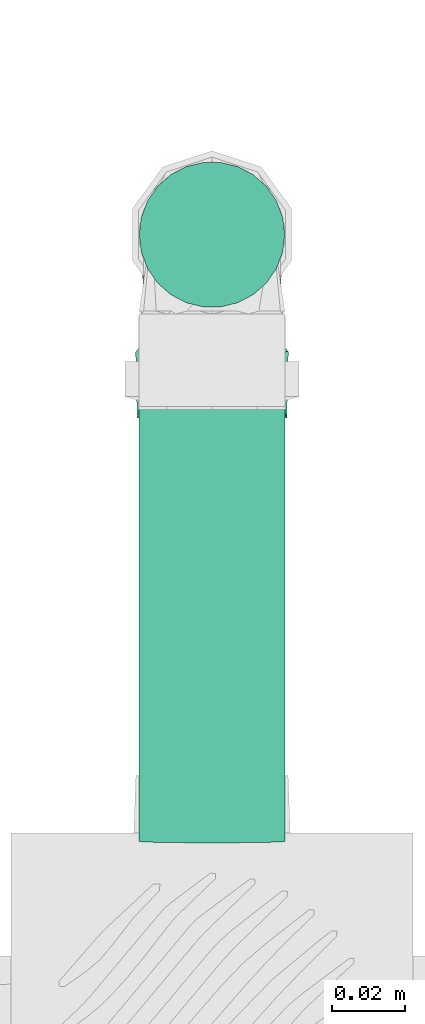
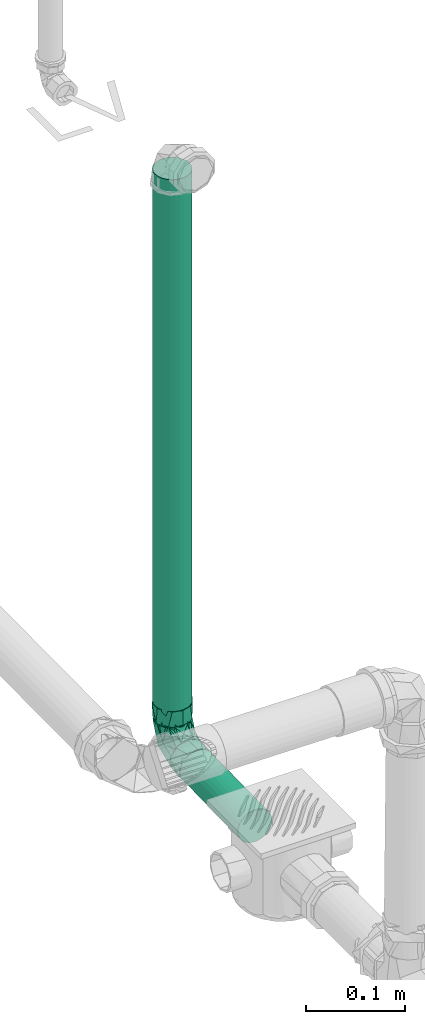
# One storey, part 188 of 589: 2 flow segments, 1 flow fitting.
"""IFC2X3 building model written with IfcOpenShell, lengths in millimetres."""

from ifc_helpers import new_model, entity, si_unit, converted_unit, derived_unit, direction, frame, frame_2d, origin, origin_2d_with_axis, place, context, subcontext, project, spatial, circle, extrude, faceted_brep, source, transform, mapped, material, type_object, type_shapes, element, save


model = new_model("IFC2X3")

# Units and contexts
model_context = context("Model", 3, precision=0.01, world=origin(), true_north=direction((6.123031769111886e-17, 1.0)))
body_context = subcontext(model_context, "Body", "Model", "MODEL_VIEW")
ifc_project = project(units=[si_unit("LENGTHUNIT", "METRE", prefix="MILLI"), si_unit("AREAUNIT", "SQUARE_METRE"), si_unit("VOLUMEUNIT", "CUBIC_METRE"), converted_unit("PLANEANGLEUNIT", "DEGREE", entity("IfcRatioMeasure", 0.017453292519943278), si_unit("PLANEANGLEUNIT", "RADIAN"), dimensions=[0, 0, 0, 0, 0, 0, 0]), si_unit("MASSUNIT", "GRAM", prefix="KILO"), derived_unit("MASSDENSITYUNIT", [(si_unit("MASSUNIT", "GRAM", prefix="KILO"), 1), (si_unit("LENGTHUNIT", "METRE"), -3)]), derived_unit("IONCONCENTRATIONUNIT", [(si_unit("MASSUNIT", "GRAM", prefix="KILO"), 1), (si_unit("LENGTHUNIT", "METRE"), -3)]), derived_unit("MOMENTOFINERTIAUNIT", [(si_unit("LENGTHUNIT", "METRE"), 4)]), si_unit("TIMEUNIT", "SECOND"), si_unit("FREQUENCYUNIT", "HERTZ"), si_unit("THERMODYNAMICTEMPERATUREUNIT", "DEGREE_CELSIUS"), derived_unit("THERMALTRANSMITTANCEUNIT", [(si_unit("MASSUNIT", "GRAM", prefix="KILO"), 1), (si_unit("THERMODYNAMICTEMPERATUREUNIT", "KELVIN"), -1), (si_unit("TIMEUNIT", "SECOND"), -3)]), derived_unit("THERMALCONDUCTANCEUNIT", [(si_unit("MASSUNIT", "GRAM", prefix="KILO"), 1), (si_unit("THERMODYNAMICTEMPERATUREUNIT", "KELVIN"), -1), (si_unit("TIMEUNIT", "SECOND"), -3), (si_unit("LENGTHUNIT", "METRE"), 1)]), derived_unit("VOLUMETRICFLOWRATEUNIT", [(si_unit("LENGTHUNIT", "METRE"), 3), (si_unit("TIMEUNIT", "SECOND"), -1)]), derived_unit("MASSFLOWRATEUNIT", [(si_unit("MASSUNIT", "GRAM", prefix="KILO"), 1), (si_unit("TIMEUNIT", "SECOND"), -1)]), derived_unit("ROTATIONALFREQUENCYUNIT", [(si_unit("TIMEUNIT", "SECOND"), -1)]), si_unit("ELECTRICCURRENTUNIT", "AMPERE"), si_unit("ELECTRICVOLTAGEUNIT", "VOLT"), si_unit("POWERUNIT", "WATT"), si_unit("FORCEUNIT", "NEWTON", prefix="KILO"), si_unit("ILLUMINANCEUNIT", "LUX"), si_unit("LUMINOUSFLUXUNIT", "LUMEN"), si_unit("LUMINOUSINTENSITYUNIT", "CANDELA"), derived_unit("USERDEFINED", [(si_unit("MASSUNIT", "GRAM", prefix="KILO"), -1), (si_unit("LENGTHUNIT", "METRE"), -2), (si_unit("TIMEUNIT", "SECOND"), 3), (si_unit("LUMINOUSFLUXUNIT", "LUMEN"), 1)]), derived_unit("USERDEFINED", [(si_unit("MASSUNIT", "GRAM", prefix="KILO"), 1), (si_unit("TIMEUNIT", "SECOND"), -3), (si_unit("LENGTHUNIT", "METRE"), 3), (si_unit("ELECTRICCURRENTUNIT", "AMPERE"), -2)]), derived_unit("SOUNDPOWERUNIT", [(si_unit("MASSUNIT", "GRAM", prefix="KILO"), 1), (si_unit("TIMEUNIT", "SECOND"), -3), (si_unit("LENGTHUNIT", "METRE"), 2)]), derived_unit("SOUNDPRESSUREUNIT", [(si_unit("MASSUNIT", "GRAM", prefix="KILO"), 1), (si_unit("LENGTHUNIT", "METRE"), -1), (si_unit("TIMEUNIT", "SECOND"), -2)]), derived_unit("LINEARVELOCITYUNIT", [(si_unit("LENGTHUNIT", "METRE"), 1), (si_unit("TIMEUNIT", "SECOND"), -1)]), si_unit("PRESSUREUNIT", "PASCAL"), derived_unit("USERDEFINED", [(si_unit("MASSUNIT", "GRAM", prefix="KILO"), 1), (si_unit("LENGTHUNIT", "METRE"), -2), (si_unit("TIMEUNIT", "SECOND"), -2)]), derived_unit("LINEARFORCEUNIT", [(si_unit("MASSUNIT", "GRAM", prefix="KILO"), 1), (si_unit("TIMEUNIT", "SECOND"), -2)]), derived_unit("PLANARFORCEUNIT", [(si_unit("MASSUNIT", "GRAM", prefix="KILO"), 1), (si_unit("LENGTHUNIT", "METRE"), -1), (si_unit("TIMEUNIT", "SECOND"), -2)]), derived_unit("SPECIFICHEATCAPACITYUNIT", [(si_unit("THERMODYNAMICTEMPERATUREUNIT", "KELVIN"), -1), (si_unit("LENGTHUNIT", "METRE"), 2), (si_unit("TIMEUNIT", "SECOND"), -2)]), derived_unit("HEATINGVALUEUNIT", [(si_unit("LENGTHUNIT", "METRE"), 2), (si_unit("TIMEUNIT", "SECOND"), -2)]), derived_unit("VAPORPERMEABILITYUNIT", [(si_unit("LENGTHUNIT", "METRE"), -1), (si_unit("TIMEUNIT", "SECOND"), 1)]), derived_unit("DYNAMICVISCOSITYUNIT", [(si_unit("MASSUNIT", "GRAM", prefix="KILO"), 1), (si_unit("TIMEUNIT", "SECOND"), -1), (si_unit("LENGTHUNIT", "METRE"), -1)]), derived_unit("THERMALEXPANSIONCOEFFICIENTUNIT", [(si_unit("THERMODYNAMICTEMPERATUREUNIT", "KELVIN"), -1)]), derived_unit("MODULUSOFELASTICITYUNIT", [(si_unit("MASSUNIT", "GRAM", prefix="KILO"), 1), (si_unit("LENGTHUNIT", "METRE"), -1), (si_unit("TIMEUNIT", "SECOND"), -2)]), derived_unit("ISOTHERMALMOISTURECAPACITYUNIT", [(si_unit("LENGTHUNIT", "METRE"), 3), (si_unit("MASSUNIT", "GRAM", prefix="KILO"), -1)]), derived_unit("MOISTUREDIFFUSIVITYUNIT", [(si_unit("TIMEUNIT", "SECOND"), -1), (si_unit("LENGTHUNIT", "METRE"), 2)])], contexts=[model_context])

# Site, building, storey
site_placement = place(None, origin())
site = spatial("IfcSite", under=ifc_project, at=site_placement, Name="Default", CompositionType="ELEMENT")
building_placement = place(site_placement, origin())
building = spatial("IfcBuilding", under=site, at=building_placement, CompositionType="ELEMENT")
storey_placement = place(building_placement, frame((0.0, 0.0, 100.0)))
storey = spatial("IfcBuildingStorey", under=building, at=storey_placement, Name="TÉRREO", CompositionType="ELEMENT", Elevation=100.0)

# Flow segments
pipe_segment_type = type_object("IfcPipeSegmentType", Name="Tipos de tubos:PVC Esgoto Série Normal", PredefinedType="NOTDEFINED")
flow_segment_1_placement = place(storey_placement, origin())
element("IfcFlowSegment", 1, at=flow_segment_1_placement, inside=storey, type_object=pipe_segment_type, Name="Tipos de tubos:PVC Esgoto Série Normal", ObjectType="Tipos de tubos:PVC Esgoto Série Normal", context=body_context, shape_type="SweptSolid", body=[
    extrude(circle(Radius=20.0, at=frame_2d((0.0, 1.0826506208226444e-14), x_axis=(1.0, 0.0))), frame((10266.454903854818, -4471.307335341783, -278.33413513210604), z_axis=(0.0, 0.9998000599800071, 0.019996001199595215), x_axis=(-1.0, 0.0, 0.0)), (0.0, 0.0, 1.0), 134.50888669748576),
])
flow_segment_2_placement = place(storey_placement, origin())
element("IfcFlowSegment", 2, at=flow_segment_2_placement, inside=storey, type_object=pipe_segment_type, Name="Tipos de tubos:PVC Esgoto Série Normal", ObjectType="Tipos de tubos:PVC Esgoto Série Normal", context=body_context, shape_type="SweptSolid", body=[
    extrude(circle(Radius=20.0, at=origin_2d_with_axis()), frame((10266.454903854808, -4304.625782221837, -242.7945046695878)), (0.0, 0.0, 1.0), 671.7945116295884),
])

# Flow fitting
ifc_material = material(Name="PVC Branco")
pipe_fitting_type = type_object("IfcPipeFittingType", Name="PVC Esgoto_Curva 90° Curta:a. Série Normal", PredefinedType="NOTDEFINED", material=ifc_material)
shared_shape = source(origin(), body_context, "Body", "Brep", [
    faceted_brep([(17.961036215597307, 31.85321923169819, 10.0), (20.63999240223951, 31.79964010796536, 0.0), (17.961036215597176, 31.853219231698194, -10.0), (5.819337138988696, 32.09605321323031, -19.318516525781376), (-4.531354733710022, 32.30306705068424, -19.31851652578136), (-16.67305381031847, 32.545901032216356, -10.0), (-19.352009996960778, 32.59948015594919, 0.0), (-16.673053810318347, 32.54590103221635, 10.0), (-4.531354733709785, 32.303067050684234, 19.318516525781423), (5.819337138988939, 32.096053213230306, 19.318516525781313), (19.378093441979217, 29.02431814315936, 6.84041311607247), (15.905813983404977, 29.093763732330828, 12.855768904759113), (20.584003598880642, 29.000199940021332, 0.0), (7.427001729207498, 29.263339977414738, 18.793865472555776), (0.5880023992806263, 29.40011996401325, 20.0), (-12.265223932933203, 29.657184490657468, 15.320851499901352), (-18.202100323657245, 29.775922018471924, 6.840381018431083), (-19.407998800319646, 29.800039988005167, 0.0), (-6.251109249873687, 29.536902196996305, 18.79382458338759), (-18.202100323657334, 29.775922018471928, -6.840381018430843), (-14.729853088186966, 29.70647707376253, -12.855716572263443), (-6.25110924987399, 29.53690219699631, -18.79382458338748), (0.588002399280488, 29.40011996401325, -20.0), (13.441163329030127, 29.143056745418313, -15.32090639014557), (19.378093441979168, 29.02431814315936, -6.8404131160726), (7.427001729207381, 29.263339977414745, -18.79386547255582), (-11.35075352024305, -12.626805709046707, 0.0), (-29.405999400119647, -18.793848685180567, 6.8404131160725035), (-29.405999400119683, -19.396924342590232, 3.420206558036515), (-29.405999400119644, -20.0, 0.0), (-29.40599940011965, -15.320874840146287, 12.855768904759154), (-29.405999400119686, -17.057361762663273, 9.848091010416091), (-2.3339581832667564, 2.3811033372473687, 18.02101843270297), (-29.40599940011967, -6.840366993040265, 18.793865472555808), (-29.405999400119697, -11.080620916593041, 15.824817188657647), (-29.405999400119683, 0.0, 20.0), (-29.40599940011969, -3.420183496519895, 19.396932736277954), (-12.878045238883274, 13.138181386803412, 18.95216884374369), (12.851249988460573, 11.095996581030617, 0.0), (5.594072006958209, -5.707072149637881, 0.0), (-29.405999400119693, 6.840479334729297, 18.79382458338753), (-29.405999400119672, 3.4202396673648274, 19.396912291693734), (-29.405999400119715, 18.793860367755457, 6.840381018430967), (-29.405999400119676, 15.824828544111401, 11.080616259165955), (-29.405999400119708, 12.855796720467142, 15.320851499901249), (-22.405985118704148, 22.858585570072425, 0.0), (-29.40599940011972, 20.0, 0.0), (-29.405999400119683, 19.396930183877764, 3.4201905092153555), (-29.405999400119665, 9.848138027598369, 17.0573380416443), (-14.138248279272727, 14.423838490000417, -18.24666465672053), (-29.405999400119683, 0.0, -20.0), (-29.40599940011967, 3.4202396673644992, -19.396912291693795), (-29.405999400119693, 6.840479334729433, -18.79382458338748), (-29.405999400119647, -18.79384868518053, -6.840413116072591), (-29.40599940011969, -15.824789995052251, -11.080659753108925), (-29.405999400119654, -12.85573130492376, -15.32090639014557), (-2.333957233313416, 2.3811024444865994, -18.021017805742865), (-29.405999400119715, 18.793860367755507, -6.840381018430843), (-29.405999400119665, 11.080699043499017, -15.824770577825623), (-29.405999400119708, 15.320918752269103, -12.855716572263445), (-29.405999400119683, -19.396924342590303, -3.420206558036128), (-29.405999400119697, -9.848049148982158, -17.0573859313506), (-29.40599940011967, -6.840366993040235, -18.79386547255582), (-29.40599940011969, -3.420183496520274, -19.396932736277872), (-29.405999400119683, 19.39693018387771, -3.4201905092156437), (-29.405999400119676, 17.05738956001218, -9.848048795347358), (-30.20599940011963, -8.21241269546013, -16.988887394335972), (-30.20599940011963, -11.248444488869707, -14.659258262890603), (-30.20599940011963, -14.28447628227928, -12.329629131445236), (-30.20599940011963, -17.320508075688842, -10.0), (-30.20599940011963, -18.66025403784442, -5.0), (-30.20599940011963, -20.0, 0.0), (-30.20599940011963, -18.660254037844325, 5.0), (-30.20599940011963, -17.320508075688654, 10.0), (-30.20599940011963, -14.284476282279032, 12.329629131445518), (-30.20599940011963, -11.248444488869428, 14.659258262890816), (-30.20599940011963, -8.21241269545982, 16.988887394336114), (-30.20599940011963, -5.1763809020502, 19.318516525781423), (-30.20599940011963, 0.0, 19.31851652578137), (-30.20599940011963, 5.176380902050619, 19.318516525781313), (-30.20599940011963, 8.21241269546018, 16.98888739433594), (-30.20599940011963, 11.248444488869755, 14.65925826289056), (-30.205999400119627, 14.284476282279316, 12.329629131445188), (-30.20599940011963, 17.320508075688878, 10.0), (-30.20599940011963, 18.66025403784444, 5.0), (-30.20599940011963, 20.0, 0.0), (-30.20599940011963, 18.66025403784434, -5.0), (-30.20599940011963, 17.32050807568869, -10.0), (-30.20599940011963, 14.284476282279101, -12.329629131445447), (-30.20599940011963, 11.24844448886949, -14.659258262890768), (-30.20599940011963, 8.212412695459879, -16.988887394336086), (-30.20599940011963, 5.1763809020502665, -19.318516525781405), (-30.20599940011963, 0.0, -19.318516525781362), (-30.20599940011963, -5.176380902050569, -19.318516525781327)], [[[0, 1, 2, 3, 4, 5, 6, 7, 8, 9]], [[10, 1, 0]], [[11, 0, 9]], [[12, 1, 10]], [[11, 10, 0]], [[13, 11, 9]], [[9, 14, 13]], [[15, 8, 7]], [[7, 6, 16]], [[17, 16, 6]], [[14, 8, 18]], [[15, 18, 8]], [[16, 15, 7]], [[8, 14, 9]], [[19, 6, 5]], [[20, 5, 4]], [[17, 6, 19]], [[20, 19, 5]], [[21, 20, 4]], [[4, 22, 21]], [[23, 3, 2]], [[2, 1, 24]], [[12, 24, 1]], [[22, 3, 25]], [[23, 25, 3]], [[24, 23, 2]], [[3, 22, 4]], [[26, 27, 28, 29]], [[26, 30, 31, 27]], [[32, 33, 34, 30]], [[32, 35, 36, 33]], [[35, 32, 37]], [[11, 38, 10]], [[26, 32, 30]], [[32, 39, 38]], [[37, 40, 41, 35]], [[37, 42, 43, 44]], [[45, 46, 47, 42]], [[16, 45, 42]], [[37, 44, 48, 40]], [[39, 32, 26]], [[14, 18, 37]], [[32, 11, 13]], [[14, 37, 32]], [[32, 38, 11]], [[12, 10, 38]], [[45, 16, 17]], [[37, 15, 16]], [[37, 16, 42]], [[15, 37, 18]], [[32, 13, 14]], [[49, 50, 51, 52]], [[49, 21, 22]], [[26, 53, 54, 55]], [[56, 39, 26]], [[49, 57, 19]], [[49, 52, 58, 59]], [[56, 50, 49]], [[26, 29, 60, 53]], [[56, 55, 61, 62]], [[56, 62, 63, 50]], [[26, 55, 56]], [[45, 57, 64, 46]], [[45, 17, 19]], [[24, 12, 38]], [[23, 56, 25]], [[49, 20, 21]], [[49, 19, 20]], [[56, 49, 22]], [[56, 23, 38]], [[49, 59, 65, 57]], [[38, 39, 56]], [[24, 38, 23]], [[56, 22, 25]], [[19, 57, 45]], [[66, 67, 68, 69, 70, 71, 72, 73, 74, 75, 76, 77, 78, 79, 80, 81, 82, 83, 84, 85, 86, 87, 88, 89, 90, 91, 92, 93]], [[47, 46, 85]], [[33, 77, 76]], [[80, 40, 48]], [[48, 44, 81]], [[33, 76, 34]], [[81, 80, 48]], [[84, 83, 42]], [[82, 81, 44]], [[73, 72, 27]], [[85, 84, 47]], [[78, 41, 79]], [[77, 36, 78]], [[30, 75, 74, 73]], [[73, 27, 31, 30]], [[77, 33, 36]], [[71, 28, 72]], [[44, 43, 82]], [[36, 35, 78]], [[41, 40, 79]], [[34, 76, 75]], [[43, 42, 83]], [[75, 30, 34]], [[41, 78, 35]], [[84, 42, 47]], [[80, 79, 40]], [[43, 83, 82]], [[28, 71, 29]], [[28, 27, 72]], [[60, 29, 71]], [[52, 91, 90]], [[66, 62, 61]], [[61, 55, 67]], [[52, 90, 58]], [[67, 66, 61]], [[70, 69, 53]], [[68, 67, 55]], [[87, 86, 57]], [[71, 70, 60]], [[92, 63, 93]], [[91, 51, 92]], [[59, 89, 88, 87]], [[87, 57, 65, 59]], [[91, 52, 51]], [[85, 64, 86]], [[55, 54, 68]], [[51, 50, 92]], [[63, 62, 93]], [[90, 89, 58]], [[54, 53, 69]], [[89, 59, 58]], [[63, 92, 50]], [[70, 53, 60]], [[66, 93, 62]], [[54, 69, 68]], [[64, 85, 46]], [[64, 57, 86]]]),
    faceted_brep([(-32.20599940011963, -17.320508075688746, -10.0), (-32.20599940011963, -20.0, 0.0), (-32.20599940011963, -17.320508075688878, 10.0), (-32.20599940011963, -5.176380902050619, 19.318516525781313), (-32.20599940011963, 5.1763809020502, 19.318516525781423), (-32.20599940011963, 17.320508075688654, 10.0), (-32.20599940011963, 20.0, 0.0), (-32.20599940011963, 17.320508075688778, -10.0), (-32.20599940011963, 5.17638090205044, -19.31851652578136), (-32.20599940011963, -5.176380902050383, -19.318516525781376), (-29.40599940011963, -20.0, 0.0), (-29.40599940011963, -15.320920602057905, 12.855714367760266), (-29.40599940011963, 3.4728419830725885, 19.696176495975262), (-29.40599940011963, 15.320777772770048, 12.855884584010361), (-29.40599940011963, 20.0, 0.0), (-29.40599940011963, 15.320777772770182, -12.855884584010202), (-29.405999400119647, 5.923858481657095, -16.27601124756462), (-29.40599940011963, -3.473060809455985, -19.69613791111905), (-29.40599940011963, -15.320920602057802, -12.855714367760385), (12.85124998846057, 11.095996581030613, 0.0), (19.378093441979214, 29.024318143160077, 6.8404131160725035), (16.409628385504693, 29.083687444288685, 11.080659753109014), (13.441163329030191, 29.143056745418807, 15.320906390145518), (5.594072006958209, -5.707072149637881, 0.0), (-3.0189256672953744, 1.4413580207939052, 17.919138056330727), (-11.350753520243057, -12.626805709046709, 0.0), (-13.807968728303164, 12.593198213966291, 18.87014454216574), (-6.251109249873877, 29.53690219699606, 18.793824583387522), (-10.490481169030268, 29.621689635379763, 15.824770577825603), (-14.729853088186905, 29.70647707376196, 12.855716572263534), (-22.405985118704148, 22.858585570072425, 0.0), (-18.20210032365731, 29.775922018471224, 6.84038101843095), (-18.805049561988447, 29.787981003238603, 3.4201905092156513), (-19.407998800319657, 29.80003998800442, 0.0), (7.427001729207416, 29.26333997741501, 18.793865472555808), (4.007502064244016, 29.331729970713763, 19.396932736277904), (0.5880023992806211, 29.400119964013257, 20.0), (10.434082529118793, 29.203198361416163, 17.057385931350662), (20.58400359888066, 29.000199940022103, 0.0), (19.981048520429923, 29.012259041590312, 3.420206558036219), (-2.8315534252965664, 29.46851108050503, 19.396912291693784), (-16.465976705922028, 29.74119954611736, 9.84804879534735), (-12.878069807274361, 13.13814230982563, -18.95217245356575), (-12.265223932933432, 29.657184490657, -15.32085149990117), (-9.258166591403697, 29.59704334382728, -17.057338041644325), (-6.251109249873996, 29.53690219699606, -18.79382458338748), (-18.202100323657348, 29.775922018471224, -6.840381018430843), (-2.142006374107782, 2.6554433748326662, -18.049846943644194), (-18.80504956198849, 29.787981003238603, -3.4201905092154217), (-15.233662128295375, 29.716553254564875, -11.080616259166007), (19.378093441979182, 29.02431814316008, -6.840413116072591), (19.981048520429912, 29.012259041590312, -3.4202065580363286), (0.5880023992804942, 29.400119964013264, -20.0), (4.0075020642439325, 29.331729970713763, -19.396932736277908), (7.427001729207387, 29.26333997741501, -18.79386547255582), (11.666407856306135, 29.178551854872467, -15.824817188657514), (15.905813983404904, 29.09376373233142, -12.855768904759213), (17.64195371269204, 29.05904093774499, -9.8480910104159), (-2.831553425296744, 29.46851108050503, -19.39691229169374), (-4.571346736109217, 30.303466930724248, -19.31851652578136), (-7.60677150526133, 30.364175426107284, -16.988887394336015), (-10.64219627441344, 30.424883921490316, -14.659258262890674), (-13.677621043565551, 30.48559241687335, -12.329629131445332), (-16.713045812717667, 30.54630091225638, -10.0), (-18.052523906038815, 30.573090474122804, -5.0), (-19.392001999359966, 30.599880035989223, 0.0), (-18.052523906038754, 30.573090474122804, 5.0), (-16.71304581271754, 30.54630091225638, 10.0), (-13.67762104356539, 30.48559241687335, 12.329629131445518), (-10.642196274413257, 30.424883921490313, 14.659258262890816), (-7.606771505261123, 30.364175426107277, 16.988887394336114), (-4.571346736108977, 30.303466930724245, 19.318516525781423), (0.6039992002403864, 30.199960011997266, 19.31851652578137), (5.779345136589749, 30.096453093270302, 19.318516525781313), (8.814769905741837, 30.035744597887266, 16.98888739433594), (11.85019467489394, 29.975036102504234, 14.65925826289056), (14.885619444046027, 29.9143276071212, 12.329629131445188), (17.92104421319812, 29.853619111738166, 10.0), (19.26052230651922, 29.82682954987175, 5.0), (20.60000039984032, 29.80003998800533, 0.0), (19.260522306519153, 29.82682954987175, -5.0), (17.921044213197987, 29.85361911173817, -10.0), (14.885619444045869, 29.914327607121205, -12.329629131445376), (11.850194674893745, 29.975036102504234, -14.659258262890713), (8.814769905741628, 30.03574459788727, -16.988887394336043), (5.779345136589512, 30.096453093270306, -19.318516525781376), (0.6039992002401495, 30.199960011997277, -19.31851652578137)], [[[0, 1, 2, 3, 4, 5, 6, 7, 8, 9]], [[10, 11, 2]], [[10, 2, 1]], [[2, 11, 3]], [[11, 12, 3]], [[4, 12, 13]], [[5, 13, 14]], [[13, 5, 4]], [[5, 14, 6]], [[12, 4, 3]], [[14, 15, 7]], [[14, 7, 6]], [[7, 15, 8]], [[8, 15, 16, 17]], [[9, 17, 18]], [[0, 18, 10]], [[18, 0, 9]], [[0, 10, 1]], [[17, 9, 8]], [[19, 20, 21, 22]], [[23, 24, 25]], [[26, 13, 12]], [[25, 24, 11]], [[24, 23, 19]], [[26, 27, 28, 29]], [[14, 13, 30]], [[11, 10, 25]], [[30, 31, 32, 33]], [[31, 30, 13]], [[24, 34, 35, 36]], [[24, 26, 12]], [[24, 22, 37, 34]], [[11, 24, 12]], [[19, 38, 39, 20]], [[26, 36, 40, 27]], [[13, 29, 41, 31]], [[13, 26, 29]], [[36, 26, 24]], [[22, 24, 19]], [[15, 14, 30]], [[42, 43, 44, 45]], [[15, 30, 46]], [[16, 15, 42, 17]], [[47, 25, 18]], [[47, 18, 17]], [[42, 15, 46]], [[30, 33, 48, 46]], [[42, 46, 49, 43]], [[19, 50, 51, 38]], [[47, 52, 53, 54]], [[47, 54, 55, 56]], [[42, 52, 47]], [[19, 56, 57, 50]], [[25, 47, 23]], [[19, 23, 47]], [[25, 10, 18]], [[19, 47, 56]], [[17, 42, 47]], [[42, 45, 58, 52]], [[59, 60, 61, 62, 63, 64, 65, 66, 67, 68, 69, 70, 71, 72, 73, 74, 75, 76, 77, 78, 79, 80, 81, 82, 83, 84, 85, 86]], [[39, 38, 79]], [[21, 77, 76]], [[74, 34, 37]], [[37, 22, 75]], [[79, 78, 39]], [[75, 74, 37]], [[74, 73, 34]], [[76, 75, 22]], [[22, 21, 76]], [[78, 77, 20]], [[72, 35, 73]], [[27, 70, 28]], [[29, 69, 68, 67]], [[67, 31, 41, 29]], [[71, 27, 40]], [[65, 32, 66]], [[71, 40, 72]], [[40, 36, 72]], [[67, 66, 31]], [[28, 70, 69]], [[35, 34, 73]], [[69, 29, 28]], [[35, 72, 36]], [[78, 20, 39]], [[21, 20, 77]], [[27, 71, 70]], [[32, 65, 33]], [[32, 31, 66]], [[48, 33, 65]], [[54, 85, 84]], [[60, 45, 44]], [[44, 43, 61]], [[54, 84, 55]], [[61, 60, 44]], [[64, 63, 46]], [[62, 61, 43]], [[81, 80, 50]], [[65, 64, 48]], [[86, 58, 59]], [[85, 53, 86]], [[56, 83, 82, 81]], [[81, 50, 57, 56]], [[85, 54, 53]], [[79, 51, 80]], [[43, 49, 62]], [[53, 52, 86]], [[58, 45, 59]], [[55, 84, 83]], [[49, 46, 63]], [[83, 56, 55]], [[58, 86, 52]], [[64, 46, 48]], [[60, 59, 45]], [[49, 63, 62]], [[51, 79, 38]], [[51, 50, 80]]]),
    faceted_brep([(5.819337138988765, 32.09605321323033, 19.31851652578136), (17.961036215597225, 31.853219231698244, 10.0), (20.63999240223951, 31.799640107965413, 0.0), (17.96103621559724, 31.853219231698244, -10.0), (5.8193371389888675, 32.09605321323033, -19.318516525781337), (-4.531354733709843, 32.30306705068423, -19.31851652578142), (-16.67305381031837, 32.54590103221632, -10.0), (-19.352009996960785, 32.59948015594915, 0.0), (-16.673053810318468, 32.54590103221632, 10.0), (-4.531354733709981, 32.303067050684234, 19.318516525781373), (-4.571346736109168, 30.303466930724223, 19.318516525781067), (-16.713045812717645, 30.54630091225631, 10.0), (-19.39200199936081, 30.599880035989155, 0.0), (-16.713045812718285, 30.546300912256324, -10.0), (-4.571346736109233, 30.303466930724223, -19.318516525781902), (5.779345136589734, 30.096453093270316, -19.31851652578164), (17.92104421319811, 29.853619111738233, -10.0), (20.60000039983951, 29.800039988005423, 0.0), (17.92104421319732, 29.853619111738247, 10.0), (5.779345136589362, 30.096453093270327, 19.31851652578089), (16.960145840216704, 31.873237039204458, -13.688192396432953), (21.93973248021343, 31.77364530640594, 0.0), (4.344880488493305, 32.12554234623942, -20.97588948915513), (-20.651750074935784, 32.625474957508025, 0.0), (-15.668729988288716, 32.52581455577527, -13.692285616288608), (-5.661924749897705, 32.32567845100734, -17.33408755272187), (-15.668729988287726, 32.52581455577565, 13.69228561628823), (-3.0516373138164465, 32.27347270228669, 20.976817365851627), (16.960145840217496, 31.87323703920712, 13.688192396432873), (6.954254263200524, 32.073354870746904, 17.332504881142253), (-4.507824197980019, 50.30619608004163, -20.574220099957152), (-4.171426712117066, 50.29946813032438, -19.318516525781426), (6.1792651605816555, 50.09245429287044, -19.318516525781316), (-17.438733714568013, 50.56481427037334, -10.649999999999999), (6.515662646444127, 50.0857263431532, -20.57422009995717), (-16.31312578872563, 50.54230211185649, -10.0), (-18.99208197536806, 50.59588123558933, 0.0), (-20.29182205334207, 50.62187603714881, 0.0), (-16.313125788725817, 50.54230211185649, 10.0), (-17.438733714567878, 50.56481427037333, 10.650000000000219), (-4.1714267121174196, 50.29946813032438, 19.318516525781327), (-4.5078241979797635, 50.30619608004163, 20.574220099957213), (6.179265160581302, 50.09245429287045, 19.3185165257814), (6.515662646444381, 50.08572634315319, 20.574220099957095), (18.320964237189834, 49.84962031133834, 10.0), (19.446572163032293, 49.827108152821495, 10.649999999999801), (22.299660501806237, 49.770046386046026, 0.0), (20.99992042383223, 49.796041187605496, 0.0), (19.44657216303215, 49.8271081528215, -10.650000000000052), (18.320964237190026, 49.84962031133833, -10.0)], [[[0, 1, 2, 3, 4, 5, 6, 7, 8, 9]], [[10, 11, 12, 13, 14, 15, 16, 17, 18, 19]], [[16, 15, 20]], [[17, 16, 21]], [[21, 16, 20]], [[15, 22, 20]], [[23, 13, 12]], [[24, 14, 13]], [[15, 14, 22]], [[23, 24, 13]], [[25, 22, 14, 24]], [[11, 10, 26]], [[12, 11, 23]], [[23, 11, 26]], [[10, 27, 26]], [[21, 18, 17]], [[28, 19, 18]], [[10, 19, 27]], [[21, 28, 18]], [[29, 27, 19, 28]], [[30, 31, 32]], [[31, 30, 33]], [[32, 34, 30]], [[33, 35, 31]], [[33, 36, 35]], [[36, 33, 37]], [[38, 36, 37]], [[38, 37, 39]], [[39, 40, 38]], [[39, 41, 40]], [[40, 41, 42]], [[43, 42, 41]], [[43, 44, 42]], [[44, 43, 45]], [[46, 44, 45]], [[47, 44, 46]], [[48, 47, 46]], [[48, 49, 47]], [[49, 48, 34]], [[34, 32, 49]], [[46, 45, 21]], [[45, 28, 21]], [[28, 45, 43]], [[43, 27, 29, 28]], [[26, 41, 39]], [[23, 39, 37]], [[41, 26, 27]], [[26, 39, 23]], [[41, 27, 43]], [[37, 33, 23]], [[33, 24, 23]], [[24, 33, 30]], [[30, 22, 25, 24]], [[20, 34, 48]], [[21, 48, 46]], [[34, 20, 22]], [[20, 48, 21]], [[34, 22, 30]], [[3, 2, 47, 49]], [[4, 3, 49, 32]], [[32, 31, 5, 4]], [[6, 5, 31, 35]], [[7, 6, 35, 36]], [[8, 7, 36, 38]], [[9, 8, 38, 40]], [[40, 42, 0, 9]], [[1, 0, 42, 44]], [[2, 1, 44, 47]]]),
    faceted_brep([(-50.20599940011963, -5.512845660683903, -20.574220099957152), (-50.20599940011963, -5.176380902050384, -19.318516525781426), (-50.20599940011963, 5.176380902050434, -19.318516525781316), (-50.20599940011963, -18.446341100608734, -10.649999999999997), (-50.20599940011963, 5.512845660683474, -20.57422009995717), (-50.20599940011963, -17.320508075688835, -10.0), (-50.20599940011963, -20.0, 0.0), (-50.20599940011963, -21.300000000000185, 0.0), (-50.20599940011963, -17.320508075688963, 10.0), (-50.20599940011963, -18.4463411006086, 10.650000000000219), (-50.20599940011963, -5.176380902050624, 19.318516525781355), (-50.20599940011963, -5.512845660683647, 20.574220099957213), (-50.20599940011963, 5.176380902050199, 19.318516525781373), (-50.20599940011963, 5.512845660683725, 20.574220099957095), (-50.20599940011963, 17.320508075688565, 10.0), (-50.20599940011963, 18.44634110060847, 10.649999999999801), (-50.20599940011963, 21.299999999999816, 0.0), (-50.20599940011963, 20.0, 0.0), (-50.20599940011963, 18.446341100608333, -10.650000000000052), (-50.20599940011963, 17.320508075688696, -10.0), (-32.20599940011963, 21.299999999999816, 0.0), (-32.205999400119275, 16.319417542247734, 13.688192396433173), (-32.205999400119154, 3.701629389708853, 20.975889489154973), (-32.20599940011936, -16.315983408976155, 13.692285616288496), (-32.20599940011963, -21.300000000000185, 0.0), (-32.20599940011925, -6.307177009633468, 17.334087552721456), (-32.20599940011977, -16.31598340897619, -13.692285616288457), (-32.20599940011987, -3.6963675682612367, -20.976817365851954), (-32.2059994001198, 16.319417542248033, -13.688192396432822), (-32.20599940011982, 6.311524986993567, -17.332504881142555), (-32.20599940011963, -5.176380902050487, 19.31851652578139), (-32.20599940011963, 5.176380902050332, 19.318516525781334), (-32.20599940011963, 17.320508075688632, 10.0), (-32.20599940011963, 20.0, 0.0), (-32.20599940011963, 17.320508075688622, -10.0), (-32.20599940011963, 5.176380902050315, -19.318516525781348), (-32.20599940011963, -5.1763809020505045, -19.318516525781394), (-32.20599940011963, -17.3205080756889, -10.0), (-32.20599940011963, -20.0, 0.0), (-32.20599940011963, -17.32050807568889, 10.0), (-30.20599940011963, -5.176380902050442, 19.31851652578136), (-30.20599940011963, -17.320508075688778, 10.0), (-30.20599940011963, -20.0, 0.0), (-30.20599940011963, -17.320508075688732, -10.0), (-30.20599940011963, -5.176380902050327, -19.318516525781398), (-30.20599940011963, 5.176380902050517, -19.318516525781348), (-30.20599940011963, 17.320508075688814, -10.0), (-30.20599940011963, 20.0, 0.0), (-30.20599940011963, 17.320508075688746, 10.0), (-30.20599940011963, 5.176380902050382, 19.318516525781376)], [[[0, 1, 2]], [[1, 0, 3]], [[2, 4, 0]], [[3, 5, 1]], [[3, 6, 5]], [[6, 3, 7]], [[8, 6, 7]], [[8, 7, 9]], [[9, 10, 8]], [[9, 11, 10]], [[10, 11, 12]], [[13, 12, 11]], [[13, 14, 12]], [[14, 13, 15]], [[16, 14, 15]], [[17, 14, 16]], [[18, 17, 16]], [[18, 19, 17]], [[19, 18, 4]], [[4, 2, 19]], [[16, 15, 20]], [[15, 21, 20]], [[21, 15, 13]], [[21, 13, 22]], [[23, 11, 9]], [[24, 9, 7]], [[11, 23, 25, 22]], [[23, 9, 24]], [[11, 22, 13]], [[7, 3, 24]], [[3, 26, 24]], [[26, 3, 0]], [[26, 0, 27]], [[28, 4, 18]], [[20, 18, 16]], [[4, 28, 29, 27]], [[28, 18, 20]], [[4, 27, 0]], [[30, 31, 32, 33, 34, 35, 36, 37, 38, 39]], [[40, 41, 42, 43, 44, 45, 46, 47, 48, 49]], [[45, 28, 46]], [[47, 46, 20]], [[20, 46, 28]], [[27, 45, 44]], [[26, 44, 43]], [[24, 43, 42]], [[45, 27, 29, 28]], [[26, 27, 44]], [[24, 26, 43]], [[40, 23, 41]], [[42, 41, 24]], [[24, 41, 23]], [[22, 40, 49]], [[21, 49, 48]], [[20, 48, 47]], [[40, 22, 25, 23]], [[21, 22, 49]], [[20, 21, 48]], [[34, 33, 17, 19]], [[35, 34, 19, 2]], [[2, 1, 36, 35]], [[37, 36, 1, 5]], [[38, 37, 5, 6]], [[39, 38, 6, 8]], [[30, 39, 8, 10]], [[10, 12, 31, 30]], [[32, 31, 12, 14]], [[33, 32, 14, 17]]]),
])
type_shapes(pipe_fitting_type, [shared_shape])
flow_fitting_placement = place(storey_placement, frame((10266.454903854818, -4304.625782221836, -275.00050406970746), z_axis=(-1.0, 0.0, 0.0), x_axis=(0.0, 0.0, -1.0)))
element("IfcFlowFitting", 3, at=flow_fitting_placement, inside=storey, type_object=pipe_fitting_type, material=ifc_material, Name="PVC Esgoto_Curva 90° Curta:a. Série Normal", ObjectType="PVC Esgoto_Curva 90° Curta:a. Série Normal", context=body_context, shape_type="MappedRepresentation", body=[
    mapped(shared_shape, transform((0.0, 0.0, 0.0), scale=1.0)),
])

save(model, "model.ifc")
